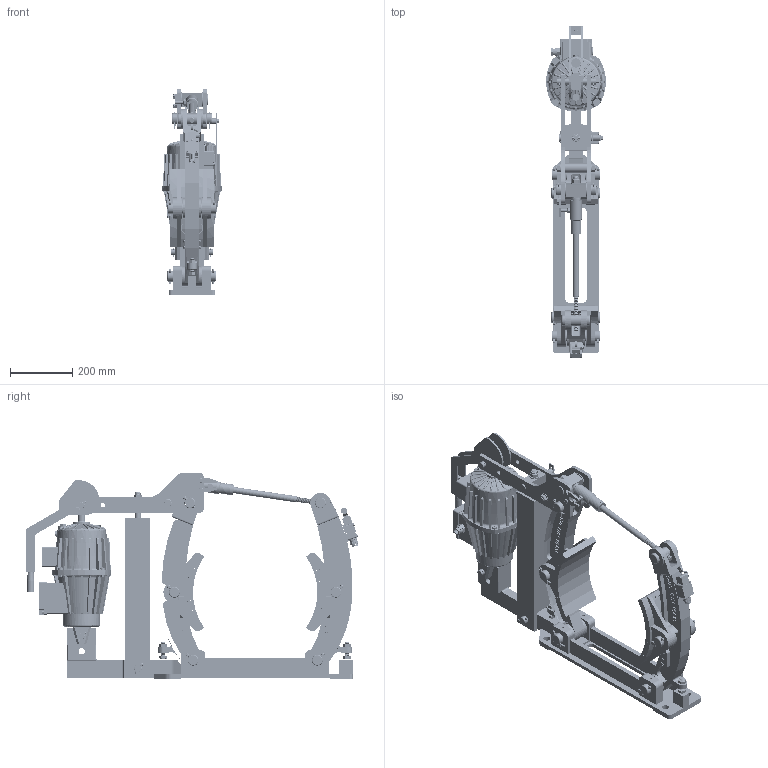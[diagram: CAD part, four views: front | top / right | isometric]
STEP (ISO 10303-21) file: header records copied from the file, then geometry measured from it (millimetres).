
FILE_DESCRIPTION((''),'2;1');
FILE_NAME('4459_404_502_E00001','2018-01-26T',('VORO'),(''),'CREO PARAMETRIC BY PTC INC, 2017170','CREO PARAMETRIC BY PTC INC, 2017170','');
FILE_SCHEMA(('CONFIG_CONTROL_DESIGN'));
Products named in the file (1): 4459_404_502_E00001
Bounding box: 192 x 1067.85 x 664.5 mm (x, y, z)
Surface area: 2805268 mm2 (no closed solid volume)
Topology: 0 solids, 5130 shells, 5696 faces, 35027 edges, 33834 vertices
Faces by surface type: plane 2728, cylinder 1965, cone 754, torus 233, bspline 16
Entity records: 578793 total; most frequent: CARTESIAN_POINT 159992, PRESENTATION_STYLE_ASSIGNMENT 45811, DIRECTION 40772, STYLED_ITEM 40120, ORIENTED_EDGE 36172, CURVE_STYLE 34995, EDGE_CURVE 34995, VERTEX_POINT 33826
